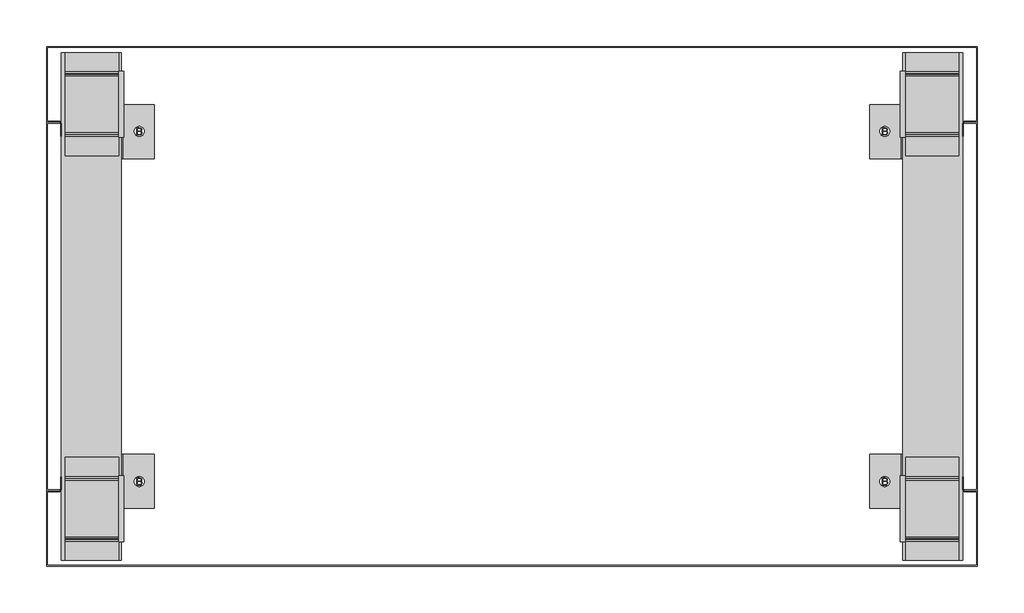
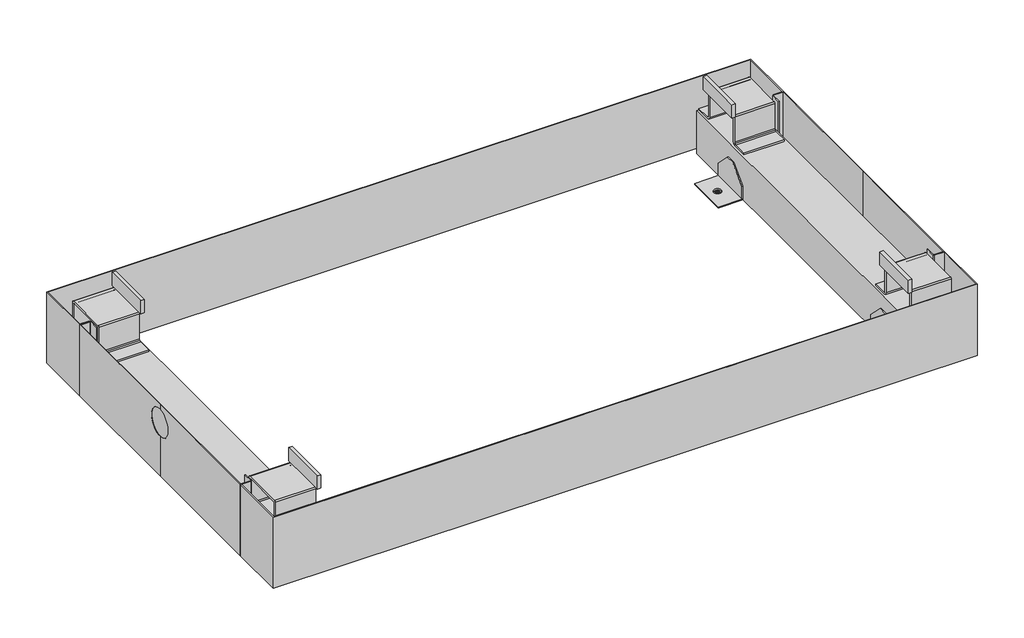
# Not in any storey: 1 proxy.
"""IFC4 building model written with IfcOpenShell, lengths in millimetres."""

from ifc_helpers import new_model, si_unit, origin, place, context, project, spatial, transform, mapped, element, save
from components import specialty_equipment_e3bb72e8

model = new_model("IFC4")

# Units and contexts
model_context = context("Model", 3, world=origin())
ifc_project = project(units=[si_unit("LENGTHUNIT", "METRE", prefix="MILLI")], contexts=[model_context])

# Site, building
site = spatial("IfcSite", under=ifc_project)
building = spatial("IfcBuilding", under=site)

# Proxy
placement = place(None, origin())
specialty_equipment_shape = specialty_equipment_e3bb72e8(model_context)
element("IfcBuildingElementProxy", 1, Name="11783030_EU_APWM028_IG : 59510028_EU_11783030_APWM028_IG", ObjectType="11783030_EU_APWM028_IG : 59510028_EU_11783030_APWM028_IG", at=placement, inside=building, context=model_context, shape_type="MappedRepresentation", body=[
    mapped(specialty_equipment_shape, transform((0.0, 0.0, 0.0), x_axis=(1.0, 0.0, 0.0), y_axis=(0.0, 1.0, 0.0), z_axis=(0.0, 0.0, 1.0))),
])

save(model, "model.ifc")
